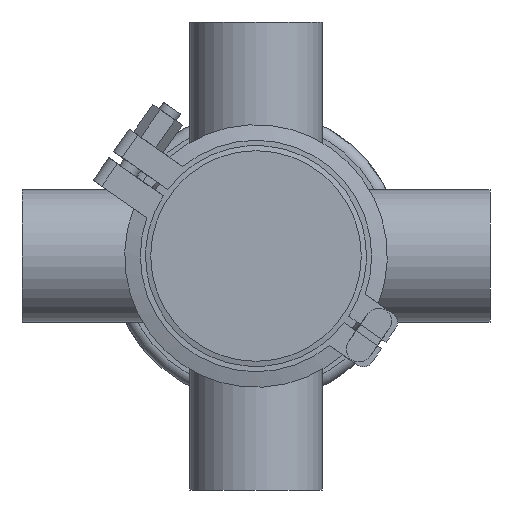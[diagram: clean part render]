
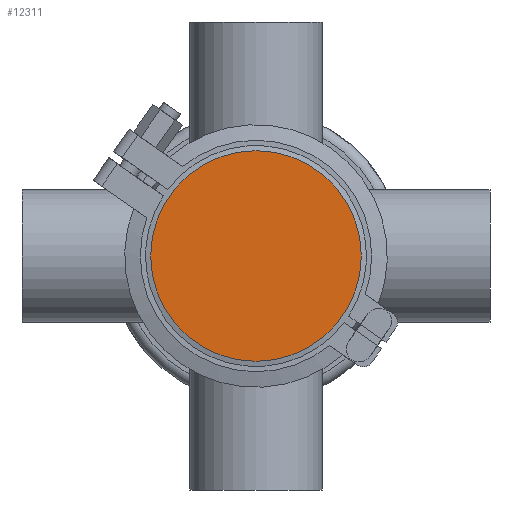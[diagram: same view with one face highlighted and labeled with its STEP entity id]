
A CAD part, front view. The second image highlights one B-rep face of the part: STEP entity #12311.
In plain terms, the highlighted planar face has unit normal (0, -1, 0).
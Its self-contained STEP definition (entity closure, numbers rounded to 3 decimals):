
#4 = DIRECTION ( 'NONE',  ( 0., 0., 1. ) ) ;
#835 = CARTESIAN_POINT ( 'NONE',  ( -40.5, 0., 0. ) ) ;
#3878 = CIRCLE ( 'NONE', #5561, 40.5 ) ;
#5561 = AXIS2_PLACEMENT_3D ( 'NONE', #17515, #9509, #4 ) ;
#7361 = DIRECTION ( 'NONE',  ( 0., 0., -1. ) ) ;
#7568 = PLANE ( 'NONE',  #10458 ) ;
#8741 = FACE_OUTER_BOUND ( 'NONE', #17856, .T. ) ;
#9082 = VERTEX_POINT ( 'NONE', #13767 ) ;
#9509 = DIRECTION ( 'NONE',  ( 0., 1., 0. ) ) ;
#10458 = AXIS2_PLACEMENT_3D ( 'NONE', #835, #15668, #7361 ) ;
#11540 = EDGE_CURVE ( 'NONE', #9082, #9082, #3878, .T. ) ;
#12311 = ADVANCED_FACE ( 'NONE', ( #8741 ), #7568, .T. ) ;
#13767 = CARTESIAN_POINT ( 'NONE',  ( 0., 0., 40.5 ) ) ;
#14454 = ORIENTED_EDGE ( 'NONE', *, *, #11540, .F. ) ;
#15668 = DIRECTION ( 'NONE',  ( 0., -1., 0. ) ) ;
#17515 = CARTESIAN_POINT ( 'NONE',  ( 0., 0., 0. ) ) ;
#17856 = EDGE_LOOP ( 'NONE', ( #14454 ) ) ;
